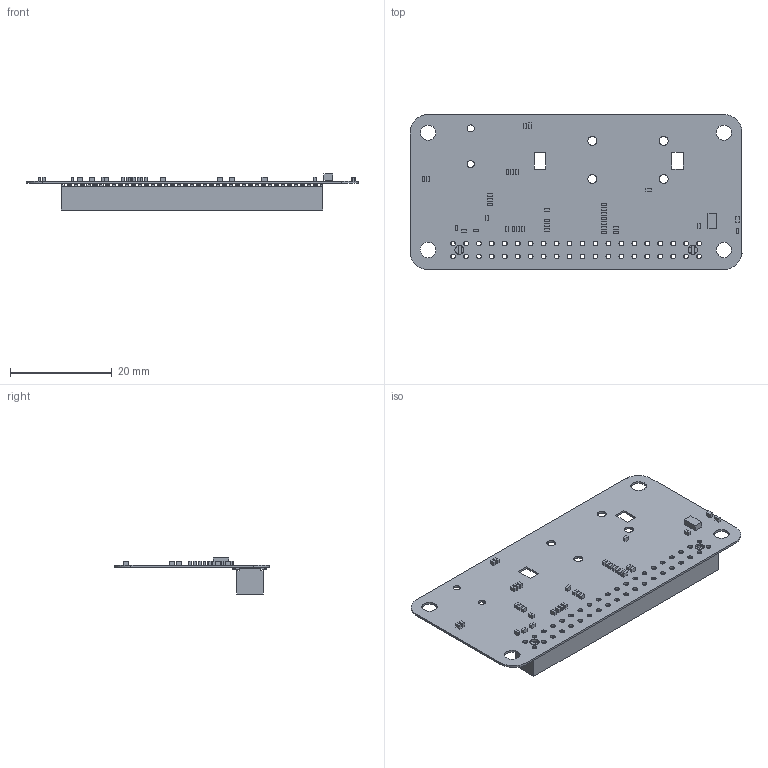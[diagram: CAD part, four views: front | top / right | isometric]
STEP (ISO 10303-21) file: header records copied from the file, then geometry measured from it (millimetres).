
FILE_DESCRIPTION(('Open CASCADE Model'),'2;1');
FILE_NAME('Open CASCADE Shape Model','2025-08-26T10:18:15',('Author'),( 'Open CASCADE'),'Open CASCADE STEP processor 6.8','Open CASCADE 6.8' ,'Unknown');
FILE_SCHEMA(('AUTOMOTIVE_DESIGN { 1 0 10303 214 1 1 1 1 }'));
Length unit declared in the file: millimetre
Products named in the file (48): PCB; Board; P5; Header-SMD-F-2.54X40; D3; 891827712; Extruded; R16; 891827576; R11; R9; R2; R1; R31; 891827440; R30; R27; R26; R25; R24; R20; R10; R32; R18; R17; R15; R14; R13; R7; R5; R19; R12; R8; R6; R4; R3; R23; R22; R21; R310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
Assembly tree (79 placements, depth 4):
  PCB
    Board
    P5
      Header-SMD-F-2.54X40
    D3
      891827712
        Extruded
    R16
      891827576
        Extruded
    R11
      891827576
        Extruded
    R9
      891827576
        Extruded
    R2
      891827576
        Extruded
    R1
      891827576
        Extruded
    R31
      891827440
        Extruded
    R30
      891827440
        Extruded
    R27
      891827440
        Extruded
    R26
      891827440
        Extruded
    R25
      891827576
        Extruded
    R24
      891827576
        Extruded
    R20
      891827440
        Extruded
    R10
      891827440
        Extruded
    R32
      891827440
        Extruded
    R18
      891827576
        Extruded
    R17
      891827576
        Extruded
    R15
      891827576
        Extruded
    R14
      891827576
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Bounding box: 65.1 x 30.37 x 7.06 mm (x, y, z)
Volume: 1582 mm3; surface area: 6452.1 mm2
Topology: 38 solids, 38 shells, 1508 faces, 4010 edges, 2620 vertices
Faces by surface type: plane 1244, cylinder 264
Full cylindrical faces by diameter (mm): 0.95 x40, 1.4 x2, 1.75 x4, 1.8 x2, 3 x3
Entity records: 129000 total; most frequent: CARTESIAN_POINT 34234, DIRECTION 13332, LINE 9022, VECTOR 9022, ORIENTED_EDGE 7252, PCURVE 7252, DEFINITIONAL_REPRESENTATION 7252, PRESENTATION_STYLE_ASSIGNMENT 4433
